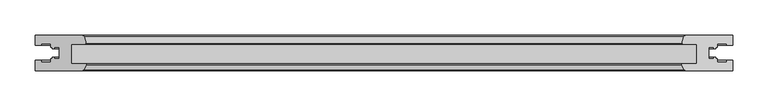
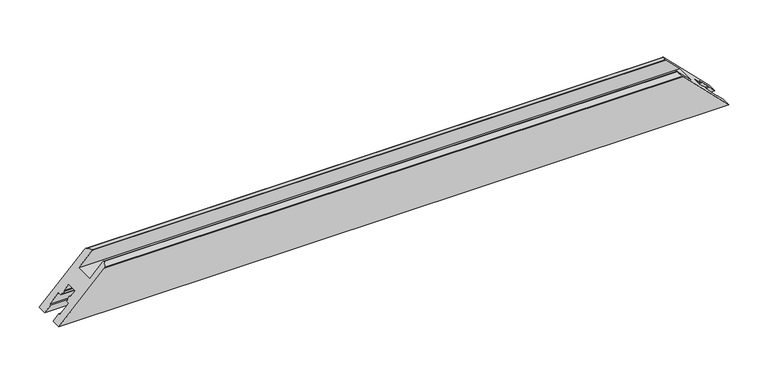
"""IFC4 building model written with IfcOpenShell, lengths in millimetres: proxy geometry, Weiku - Montante - Folha de correr 02.2.01.020 : Weiku - Montante - Folha de correr 02.2.01.020."""

from ifc_helpers import new_model, si_unit, frame, origin, place, context, project, spatial, ellipse_curve, source, transform, mapped, element, save
from ifc_brep_helpers import plane_surface, cylinder_surface, advanced_brep


def generic_models_25556c4b(model_context):
    return source(origin(), model_context, "Body", "AdvancedBrep", [
        advanced_brep(
        [(494.5, 50.0, 0.0), (-494.5, 50.0, 0.0), (-428.0004942, 50.0, 66.4995058), (428.0004942, 50.0, 66.4995058), (494.5, 35.5, 0.0), (-494.5, 35.5, 0.0), (-494.5, 0.0, 0.0), (494.5, 0.0, 0.0), (426.9879875, 0.0, 67.5120125), (-426.9879875, 0.0, 67.5120125), (-485.9, 35.5, 8.6), (-485.9, 38.3, 8.6), (-472.7, 38.3, 21.8), (-472.7, 33.1, 21.8), (-470.3524152, 33.1, 24.1475848), (-470.5273926, 31.1, 23.9726074), (-467.7, 31.1, 26.8), (-467.7, 33.1, 26.8), (-460.5, 33.1, 34.0), (-460.5, 16.9, 34.0), (-467.7, 16.9, 26.8), (-467.7, 18.9, 26.8), (-470.5273926, 18.9, 23.9726074), (-470.3524152, 16.9, 24.1475848), (-472.7, 16.9, 21.8), (-472.7, 11.7, 21.8), (-485.9, 11.7, 8.6), (-485.9, 14.5, 8.6), (-494.5, 14.5, 0.0), (-426.0940268, 0.5518546, 68.4059732), (-422.5520406, 7.617411, 71.9479594), (-423.7141895, 9.5, 70.7858105), (-443.5007611, 9.5, 50.9992389), (-443.5007611, 37.5, 50.9992389), (-423.0007611, 37.5, 71.4992389), (-422.5177981, 38.1294095, 71.9822019), (-425.1027168, 47.7764571, 69.3972832), (425.1027168, 47.7764571, 69.3972832), (422.5177981, 38.1294095, 71.9822019), (423.0007611, 37.5, 71.4992389), (443.5007611, 37.5, 50.9992389), (443.5007611, 9.5, 50.9992389), (423.7141895, 9.5, 70.7858105), (422.5520406, 7.617411, 71.9479594), (426.0940268, 0.5518546, 68.4059732), (494.5, 14.5, 0.0), (485.9, 14.5, 8.6), (485.9, 11.7, 8.6), (472.7, 11.7, 21.8), (472.7, 16.9, 21.8), (470.3524152, 16.9, 24.1475848), (470.5273926, 18.9, 23.9726074), (467.7, 18.9, 26.8), (467.7, 16.9, 26.8), (460.5, 16.9, 34.0), (460.5, 33.1, 34.0), (467.7, 33.1, 26.8), (467.7, 31.1, 26.8), (470.5273926, 31.1, 23.9726074), (470.3524152, 33.1, 24.1475848), (472.7, 33.1, 21.8), (472.7, 38.3, 21.8), (485.9, 38.3, 8.6), (485.9, 35.5, 8.6)],
        [
            (0, 1),
            (1, 2),
            (2, 3),
            (3, 0),
            (0, 4),
            (4, 5),
            (5, 1),
            (6, 7),
            (7, 8),
            (8, 9),
            (9, 6),
            (5, 10),
            (10, 11),
            (11, 12),
            (12, 13),
            (13, 14),
            (14, 15),
            (15, 16),
            (16, 17),
            (17, 18),
            (18, 19),
            (19, 20),
            (20, 21),
            (21, 22),
            (22, 23),
            (23, 24),
            (24, 25),
            (25, 26),
            (26, 27),
            (27, 28),
            (28, 6),
            (9, 29, ellipse_curve(frame((-426.9879875, 1.0, 67.5120125), z_axis=(-0.707106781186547, 0.0, 0.7071067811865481), x_axis=(-0.7071067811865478, 0.0, -0.707106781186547)), 1.4142136, 1.0)),
            (29, 30),
            (30, 31, ellipse_curve(frame((-423.7141895, 8.2, 70.7858105), z_axis=(-0.707106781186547, 0.0, 0.7071067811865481), x_axis=(-0.7071067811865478, 0.0, -0.707106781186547)), 1.8384776, 1.3)),
            (31, 32),
            (32, 33),
            (33, 34),
            (34, 35, ellipse_curve(frame((-423.0007611, 38.0, 71.4992389), z_axis=(-0.707106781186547, 0.0, 0.7071067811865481), x_axis=(-0.7071067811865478, 0.0, -0.707106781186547)), 0.7071068, 0.5)),
            (35, 36),
            (36, 2, ellipse_curve(frame((-428.0004942, 47.0, 66.4995058), z_axis=(-0.707106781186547, 0.0, 0.7071067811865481), x_axis=(-0.7071067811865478, 0.0, -0.707106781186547)), 4.2426407, 3.0)),
            (3, 37, ellipse_curve(frame((428.0004942, 47.0, 66.4995058), z_axis=(0.7071067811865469, 0.0, 0.7071067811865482), x_axis=(-0.707106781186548, 0.0, 0.7071067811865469)), 4.2426407, 3.0)),
            (37, 38),
            (38, 39, ellipse_curve(frame((423.0007611, 38.0, 71.4992389), z_axis=(0.7071067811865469, 0.0, 0.7071067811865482), x_axis=(-0.707106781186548, 0.0, 0.7071067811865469)), 0.7071068, 0.5)),
            (39, 40),
            (40, 41),
            (41, 42),
            (42, 43, ellipse_curve(frame((423.7141895, 8.2, 70.7858105), z_axis=(0.7071067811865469, 0.0, 0.7071067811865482), x_axis=(-0.707106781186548, 0.0, 0.7071067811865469)), 1.8384776, 1.3)),
            (43, 44),
            (44, 8, ellipse_curve(frame((426.9879875, 1.0, 67.5120125), z_axis=(0.7071067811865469, 0.0, 0.7071067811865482), x_axis=(-0.707106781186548, 0.0, 0.7071067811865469)), 1.4142136, 1.0)),
            (7, 45),
            (45, 46),
            (46, 47),
            (47, 48),
            (48, 49),
            (49, 50),
            (50, 51),
            (51, 52),
            (52, 53),
            (53, 54),
            (54, 55),
            (55, 56),
            (56, 57),
            (57, 58),
            (58, 59),
            (59, 60),
            (60, 61),
            (61, 62),
            (62, 63),
            (63, 4),
            (44, 29),
            (43, 30),
            (42, 31),
            (41, 32),
            (40, 33),
            (39, 34),
            (38, 35),
            (37, 36),
            (63, 10),
            (62, 11),
            (61, 12),
            (60, 13),
            (59, 14),
            (58, 15),
            (57, 16),
            (56, 17),
            (55, 18),
            (54, 19),
            (53, 20),
            (52, 21),
            (51, 22),
            (50, 23),
            (49, 24),
            (48, 25),
            (47, 26),
            (46, 27),
            (45, 28),
        ],
        [
            plane_surface(frame((-494.5, 50.0, 66.4995058), z_axis=(0.0, 1.0, 0.0), x_axis=(1.0, 0.0, 0.0))),
            plane_surface(frame((-494.5, 50.0, 0.0), z_axis=(0.0, 0.0, -1.0), x_axis=(1.0, 0.0, 0.0))),
            plane_surface(frame((-494.5, 0.0, 0.0), z_axis=(0.0, -1.0, 0.0), x_axis=(1.0, 0.0, 0.0))),
            plane_surface(frame((-522.7842712, 0.0, -28.2842712), z_axis=(-0.707106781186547, 0.0, 0.7071067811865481), x_axis=(0.0, 1.0, 0.0))),
            plane_surface(frame((414.5, 0.0, 80.0), z_axis=(0.7071067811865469, 0.0, 0.7071067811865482), x_axis=(0.0, 1.0, 0.0))),
            cylinder_surface(frame((-494.5, 1.0, 67.5120125), z_axis=(-1.0, 0.0, 0.0), x_axis=(0.0, 1.0, 0.0)), 1.0),
            plane_surface(frame((-494.5, 0.5518546, 68.4059732), z_axis=(0.0, -0.4481453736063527, 0.8939606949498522), x_axis=(1.0, 0.0, 0.0))),
            cylinder_surface(frame((-494.5, 8.2, 70.7858105), z_axis=(-1.0, 0.0, 0.0), x_axis=(0.0, 1.0, 0.0)), 1.3),
            plane_surface(frame((-494.5, 9.5, 70.7858105), z_axis=(0.0, 1.0, 0.0), x_axis=(1.0, 0.0, 0.0))),
            plane_surface(frame((-494.5, 9.5, 50.9992389), z_axis=(0.0, 0.0, 1.0), x_axis=(1.0, 0.0, 0.0))),
            plane_surface(frame((-494.5, 37.5, 50.9992389), z_axis=(0.0, -1.0, 0.0), x_axis=(1.0, 0.0, 0.0))),
            cylinder_surface(frame((-494.5, 38.0, 71.4992389), z_axis=(-1.0, 0.0, 0.0), x_axis=(0.0, 1.0, 0.0)), 0.5),
            plane_surface(frame((-494.5, 38.1294095, 71.9822019), z_axis=(0.0, 0.2588190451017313, 0.9659258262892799), x_axis=(1.0, 0.0, 0.0))),
            cylinder_surface(frame((-494.5, 47.0, 66.4995058), z_axis=(-1.0, 0.0, 0.0), x_axis=(0.0, 1.0, 0.0)), 3.0),
            plane_surface(frame((-494.5, 35.5, 0.0), z_axis=(0.0, -1.0, 0.0), x_axis=(1.0, 0.0, 0.0))),
            plane_surface(frame((-494.5, 35.5, 8.6), z_axis=(0.0, 0.0, 1.0), x_axis=(1.0, 0.0, 0.0))),
            plane_surface(frame((-494.5, 38.3, 8.6), z_axis=(0.0, -1.0, 0.0), x_axis=(1.0, 0.0, 0.0))),
            plane_surface(frame((-494.5, 38.3, 21.8), z_axis=(0.0, 0.0, -1.0), x_axis=(1.0, 0.0, 0.0))),
            plane_surface(frame((-494.5, 33.1, 21.8), z_axis=(0.0, -1.0, 0.0), x_axis=(1.0, 0.0, 0.0))),
            plane_surface(frame((-494.5, 33.1, 24.1475848), z_axis=(0.0, 0.08715574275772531, -0.9961946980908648), x_axis=(1.0, 0.0, 0.0))),
            plane_surface(frame((-494.5, 31.1, 23.9726074), z_axis=(0.0, -1.0, 0.0), x_axis=(1.0, 0.0, 0.0))),
            plane_surface(frame((-494.5, 31.1, 26.8), z_axis=(0.0, 0.0, 1.0), x_axis=(1.0, 0.0, 0.0))),
            plane_surface(frame((-494.5, 33.1, 26.8), z_axis=(0.0, -1.0, 0.0), x_axis=(1.0, 0.0, 0.0))),
            plane_surface(frame((-494.5, 33.1, 34.0), z_axis=(0.0, 0.0, -1.0), x_axis=(1.0, 0.0, 0.0))),
            plane_surface(frame((-494.5, 16.9, 34.0), z_axis=(0.0, 1.0, 0.0), x_axis=(1.0, 0.0, 0.0))),
            plane_surface(frame((-494.5, 16.9, 26.8), z_axis=(0.0, 0.0, 1.0), x_axis=(1.0, 0.0, 0.0))),
            plane_surface(frame((-494.5, 18.9, 26.8), z_axis=(0.0, 1.0, 0.0), x_axis=(1.0, 0.0, 0.0))),
            plane_surface(frame((-494.5, 18.9, 23.9726074), z_axis=(0.0, -0.08715574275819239, -0.9961946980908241), x_axis=(1.0, 0.0, 0.0))),
            plane_surface(frame((-494.5, 16.9, 24.1475848), z_axis=(0.0, 1.0, 0.0), x_axis=(1.0, 0.0, 0.0))),
            plane_surface(frame((-494.5, 16.9, 21.8), z_axis=(0.0, 0.0, -1.0), x_axis=(1.0, 0.0, 0.0))),
            plane_surface(frame((-494.5, 11.7, 21.8), z_axis=(0.0, 1.0, 0.0), x_axis=(1.0, 0.0, 0.0))),
            plane_surface(frame((-494.5, 11.7, 8.6), z_axis=(0.0, 0.0, 1.0), x_axis=(1.0, 0.0, 0.0))),
            plane_surface(frame((-494.5, 14.5, 8.6), z_axis=(0.0, 1.0, 0.0), x_axis=(1.0, 0.0, 0.0))),
            plane_surface(frame((-494.5, 14.5, 0.0), z_axis=(0.0, 0.0, -1.0), x_axis=(1.0, 0.0, 0.0))),
        ],
        [
            (0, [[1, 2, 3, 4]]),
            (1, [[-1, 5, 6, 7]]),
            (2, [[8, 9, 10, 11]]),
            (3, [[-2, -7, 12, 13, 14, 15, 16, 17, 18, 19, 20, 21, 22, 23, 24, 25, 26, 27, 28, 29, 30, 31, -11, 32, 33, 34, 35, 36, 37, 38, 39, 40]]),
            (4, [[-4, 41, 42, 43, 44, 45, 46, 47, 48, 49, -9, 50, 51, 52, 53, 54, 55, 56, 57, 58, 59, 60, 61, 62, 63, 64, 65, 66, 67, 68, 69, -5]]),
            (5, [[-32, -10, -49, 70]]),
            (6, [[-33, -70, -48, 71]]),
            (7, [[-34, -71, -47, 72]]),
            (8, [[-35, -72, -46, 73]]),
            (9, [[-36, -73, -45, 74]]),
            (10, [[-37, -74, -44, 75]]),
            (11, [[-38, -75, -43, 76]]),
            (12, [[-39, -76, -42, 77]]),
            (13, [[-40, -77, -41, -3]]),
            (14, [[-6, -69, 78, -12]]),
            (15, [[-13, -78, -68, 79]]),
            (16, [[-14, -79, -67, 80]]),
            (17, [[-15, -80, -66, 81]]),
            (18, [[-16, -81, -65, 82]]),
            (19, [[-17, -82, -64, 83]]),
            (20, [[-18, -83, -63, 84]]),
            (21, [[-19, -84, -62, 85]]),
            (22, [[-20, -85, -61, 86]]),
            (23, [[-21, -86, -60, 87]]),
            (24, [[-22, -87, -59, 88]]),
            (25, [[-23, -88, -58, 89]]),
            (26, [[-24, -89, -57, 90]]),
            (27, [[-25, -90, -56, 91]]),
            (28, [[-26, -91, -55, 92]]),
            (29, [[-27, -92, -54, 93]]),
            (30, [[-28, -93, -53, 94]]),
            (31, [[-29, -94, -52, 95]]),
            (32, [[96, -30, -95, -51]]),
            (33, [[-8, -31, -96, -50]]),
        ],
    ),
    ])


if __name__ == "__main__":
    model = new_model("IFC4")
    model_context = context("Model", 3, world=origin())
    ifc_project = project(units=[si_unit("LENGTHUNIT", "METRE", prefix="MILLI")], contexts=[model_context])
    site = spatial("IfcSite", under=ifc_project)
    building = spatial("IfcBuilding", under=site)
    placement = place(None, origin())
    generic_models_shape = generic_models_25556c4b(model_context)
    element("IfcBuildingElementProxy", 1, Name="Weiku - Montante - Folha de correr 02.2.01.020 : Weiku - Montante - Folha de correr 02.2.01.020", ObjectType="Weiku - Montante - Folha de correr 02.2.01.020 : Weiku - Montante - Folha de correr 02.2.01.020", at=placement, inside=building, context=model_context, shape_type="MappedRepresentation", body=[
        mapped(generic_models_shape, transform((0.0, 0.0, 0.0), x_axis=(1.0, 0.0, 0.0), y_axis=(0.0, 1.0, 0.0), z_axis=(0.0, 0.0, 1.0))),
    ])
    save(model, "model.ifc")
